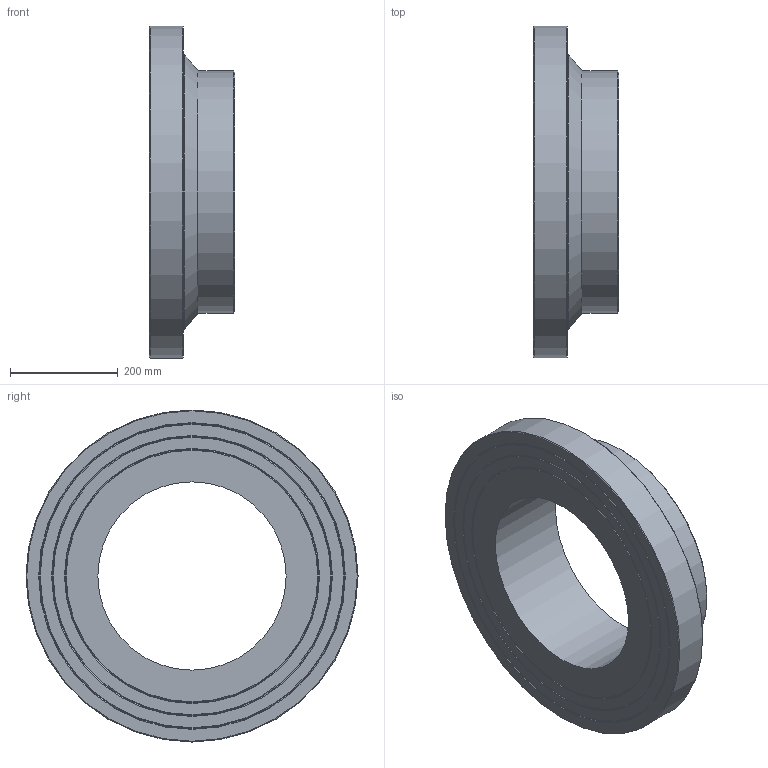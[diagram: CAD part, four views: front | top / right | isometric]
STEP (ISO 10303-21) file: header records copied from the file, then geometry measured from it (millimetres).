
FILE_DESCRIPTION(/* description */ ('Unknown'),/* implementation_level */ '2;1');
FILE_NAME(/* name */ 'CCP450G',/* time_stamp */ '2022-04-04T14:23:32+02:00',/* author */ ('Unknown'),/* organization */ ('Unknown'),/* preprocessor_version */ 'ST-DEVELOPER v18.1',/* originating_system */ 'Solid Edge',/* authorisation */ 'Unknown');
FILE_SCHEMA (('AUTOMOTIVE_DESIGN {1 0 10303 214 3 1 1}'));
Length unit declared in the file: millimetre
Products named in the file (1): CCP450G
Bounding box: 158 x 616 x 616 mm (x, y, z)
Volume: 19359056.7 mm3; surface area: 808452.2 mm2
Topology: 1 solids, 1 shells, 20 faces, 35 edges, 21 vertices
Faces by surface type: cone 10, plane 6, cylinder 3, torus 1
Full cylindrical faces by diameter (mm): 349.4 x1, 450 x1, 616 x1
Entity records: 438 total; most frequent: DIRECTION 82, CARTESIAN_POINT 61, AXIS2_PLACEMENT_3D 41, ORIENTED_EDGE 40, EDGE_LOOP 40, FACE_BOUND 40, EDGE_CURVE 20, VERTEX_POINT 20
